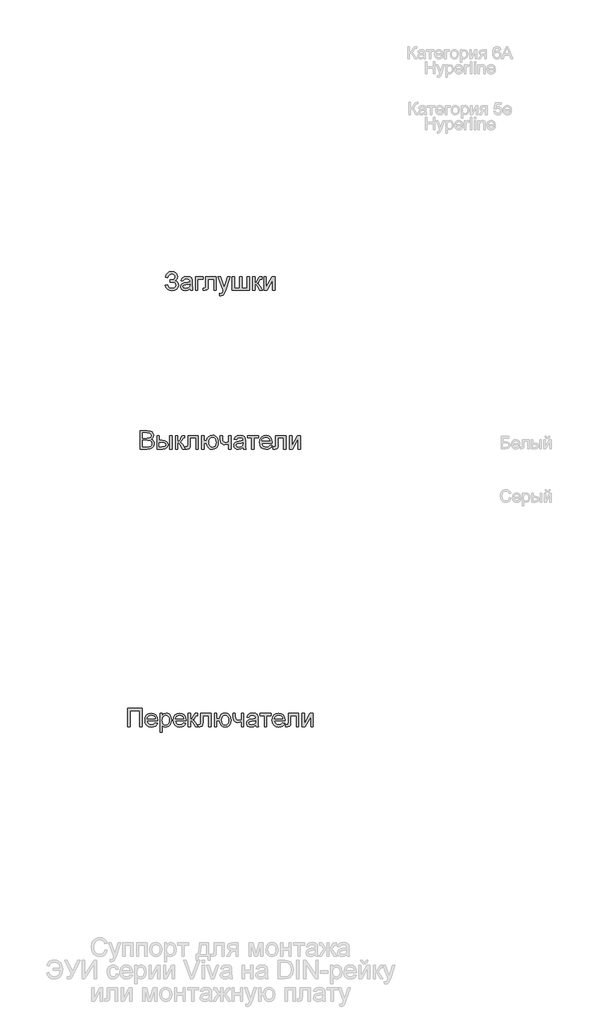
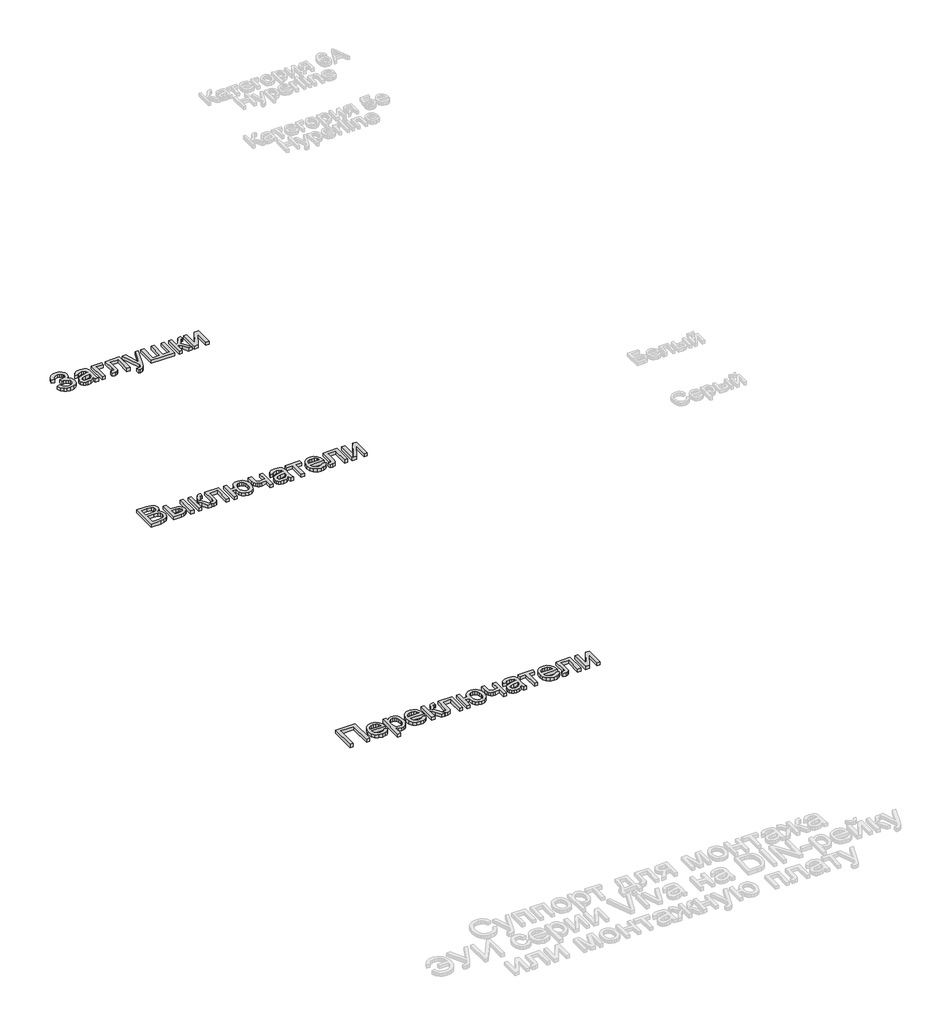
# One storey, part 3 of 15: 3 proxies.
"""IFC4 building model written with IfcOpenShell, lengths in millimetres."""

from ifc_helpers import new_model, si_unit, origin, origin_with_axes, place, context, project, spatial, polyline, outline, extrude, element, save

model = new_model("IFC4")

# Units and contexts
model_context = context("Model", 3, world=origin())
ifc_project = project(units=[si_unit("LENGTHUNIT", "METRE", prefix="MILLI")], contexts=[model_context])

# Site, building, storey
site = spatial("IfcSite", under=ifc_project)
building = spatial("IfcBuilding", under=site)
storey = spatial("IfcBuildingStorey", under=building, Name="Этаж 01", Elevation=0.0)

# Proxies
placement = place(None, origin())
element("IfcBuildingElementProxy", 1, Name="150 мм Arial", ObjectType="150 мм Arial", at=placement, inside=storey, context=model_context, shape_type="SweptSolid", body=[
    extrude(outline(polyline([(-1922.2336144, -8854.1329224), (-1903.3980563, -8849.4240328), (-1891.8281675, -8869.8230895), (-1880.8974737, -8877.4796335), (-1866.9041623, -8880.0318148), (-1852.72691, -8878.1142299), (-1841.9065808, -8872.3614752), (-1835.0501801, -8863.8955908), (-1832.7647132, -8853.8386168), (-1835.2617122, -8843.3033961), (-1842.7527094, -8835.1686055), (-1854.5479258, -8829.9676738), (-1869.9575829, -8828.2340299), (-1879.8536086, -8828.2340299), (-1879.8536086, -8809.3984718), (-1858.534847, -8807.8717615), (-1845.4934302, -8800.0726632), (-1839.8280475, -8785.8172359), (-1841.7134427, -8776.9466813), (-1847.3696284, -8769.3177284), (-1856.2447815, -8764.0616144), (-1867.7870791, -8762.3095764), (-1887.0089134, -8767.6990476), (-1898.008585, -8781.9912631), (-1901.0436115, -8795.2718031), (-1919.8791696, -8790.5629136), (-1914.0275467, -8769.9615219), (-1903.4256474, -8755.2462421), (-1888.0734719, -8746.4170742), (-1867.9710201, -8743.4740182), (-1848.5790405, -8746.5320373), (-1833.6660241, -8755.7060946), (-1824.160873, -8768.972839), (-1820.9924893, -8784.3089197), (-1825.9221081, -8802.9513398), (-1840.7109643, -8816.8664763), (-1830.2355245, -8821.6903289), (-1821.6178887, -8829.8343166), (-1815.8513385, -8840.5994635), (-1813.929155, -8853.2867938), (-1817.617172, -8871.124472), (-1828.681223, -8885.7891681), (-1845.8337211, -8895.5978218), (-1867.7870791, -8898.867373), (-1886.8893517, -8896.0714698), (-1902.3311985, -8887.6837603), (-1914.1126194, -8873.7042445), (-1922.2336144, -8854.1329224)])), origin_with_axes(), (0.0, 0.0, 1.0), 20.0),
    extrude(outline(polyline([(-1719.7513643, -8882.3862596), (-1738.0167053, -8895.1517648), (-1758.1950328, -8898.867373), (-1773.9357836, -8896.6324899), (-1785.5470591, -8889.9278405), (-1792.7069624, -8879.7467063), (-1795.0935969, -8867.0823686), (-1791.4883533, -8852.1831478), (-1782.015392, -8841.3674171), (-1768.8268224, -8835.1869996), (-1752.52965, -8832.3543083), (-1719.8617289, -8825.8795851), (-1719.7513643, -8821.6857304), (-1721.0481483, -8813.2796268), (-1724.9385004, -8807.779791), (-1733.6389096, -8803.6963008), (-1745.7606213, -8802.3351375), (-1764.8169087, -8805.9587751), (-1773.903594, -8818.8162508), (-1792.7391521, -8816.4618061), (-1784.5905659, -8798.0677063), (-1768.1830289, -8787.2887639), (-1743.3326002, -8783.4995793), (-1720.5055224, -8786.8473055), (-1707.6112584, -8795.253409), (-1701.8355111, -8808.0373084), (-1700.9158061, -8824.5184218), (-1700.9158061, -8847.9525049), (-1699.9593129, -8880.6756083), (-1696.2069166, -8896.5129282), (-1715.0424747, -8896.5129282), (-1719.7513643, -8882.3862596)]), holes=[polyline([(-1719.7513643, -8844.7151433), (-1750.1384171, -8850.4908906), (-1766.343619, -8853.5443112), (-1773.6828648, -8858.5107181), (-1776.2580387, -8865.7579934), (-1770.6478383, -8875.9483247), (-1754.185119, -8880.0318148), (-1735.1288317, -8875.5252604), (-1722.841573, -8864.6175592), (-1719.8617289, -8850.0494322), (-1719.7513643, -8844.7151433)])]), origin_with_axes(), (0.0, 0.0, 1.0), 20.0),
    extrude(outline(polyline([(-1675.0169137, -8785.8540241), (-1613.8013497, -8785.8540241), (-1613.8013497, -8804.6895822), (-1656.1813555, -8804.6895822), (-1656.1813555, -8896.5129282), (-1675.0169137, -8896.5129282), (-1675.0169137, -8785.8540241)])), origin_with_axes(), (0.0, 0.0, 1.0), 20.0),
    extrude(outline(polyline([(-1590.256902, -8785.8540241), (-1505.4968903, -8785.8540241), (-1505.4968903, -8896.4025636), (-1524.3324484, -8896.4025636), (-1524.3324484, -8804.6895822), (-1571.4213438, -8804.6895822), (-1571.4213438, -8857.4806485), (-1572.6905367, -8881.8344366), (-1579.6619005, -8892.1167384), (-1596.1430139, -8896.5129282), (-1611.4469049, -8895.556435), (-1611.4469049, -8877.6773701), (-1603.0224072, -8877.6773701), (-1594.505939, -8876.5185418), (-1591.1030306, -8872.8397218), (-1590.256902, -8856.4137907), (-1590.256902, -8785.8540241)])), origin_with_axes(), (0.0, 0.0, 1.0), 20.0),
    extrude(outline(polyline([(-1477.2435531, -8938.8929341), (-1479.5979978, -8920.7563517), (-1470.0330659, -8922.4118207), (-1461.0935335, -8920.3332874), (-1455.6120917, -8914.539146), (-1450.4617438, -8900.6699948), (-1448.9902158, -8896.108258), (-1489.0157769, -8785.8540241), (-1469.1501492, -8785.8540241), (-1447.923358, -8847.2903173), (-1440.5289299, -8871.8648345), (-1433.1345018, -8850.1597968), (-1411.3190995, -8785.8540241), (-1391.6006246, -8785.8540241), (-1430.1178695, -8899.1616786), (-1440.1242597, -8923.7361959), (-1451.050355, -8937.0167359), (-1465.7288466, -8941.2473788), (-1477.2435531, -8938.8929341)])), origin_with_axes(), (0.0, 0.0, 1.0), 20.0),
    extrude(outline(polyline([(-1376.002428, -8785.8540241), (-1357.1668698, -8785.8540241), (-1357.1668698, -8877.6773701), (-1314.786864, -8877.6773701), (-1314.786864, -8785.8540241), (-1295.9513058, -8785.8540241), (-1295.9513058, -8877.6773701), (-1253.5713, -8877.6773701), (-1253.5713, -8785.8540241), (-1234.7357418, -8785.8540241), (-1234.7357418, -8896.5129282), (-1376.002428, -8896.5129282), (-1376.002428, -8785.8540241)])), origin_with_axes(), (0.0, 0.0, 1.0), 20.0),
    extrude(outline(polyline([(-1208.8368494, -8785.8540241), (-1190.0012912, -8785.8540241), (-1190.0012912, -8832.9429195), (-1177.3829388, -8829.5584051), (-1167.0454547, -8809.8399302), (-1158.4554101, -8792.8253879), (-1150.877041, -8787.2887639), (-1137.0998603, -8785.8540241), (-1133.4946168, -8785.8540241), (-1133.4946168, -8804.7999468), (-1138.5713883, -8804.6895822), (-1147.7684382, -8806.676145), (-1154.2431613, -8819.0737682), (-1161.8399245, -8832.483067), (-1172.4901082, -8839.0497606), (-1160.6075198, -8846.3798093), (-1148.9456606, -8861.8216561), (-1128.7857272, -8896.5129282), (-1150.1964593, -8896.5129282), (-1169.9517225, -8862.5574201), (-1179.8845364, -8848.1916282), (-1190.0012912, -8844.7151433), (-1190.0012912, -8896.5129282), (-1208.8368494, -8896.5129282), (-1208.8368494, -8785.8540241)])), origin_with_axes(), (0.0, 0.0, 1.0), 20.0),
    extrude(outline(polyline([(-1117.0135034, -8785.8540241), (-1098.1779452, -8785.8540241), (-1098.1779452, -8870.2461538), (-1051.8983902, -8785.8540241), (-1027.5446021, -8785.8540241), (-1027.5446021, -8896.5129282), (-1046.3801603, -8896.5129282), (-1046.3801603, -8812.6358333), (-1092.3654097, -8896.5129282), (-1117.0135034, -8896.5129282), (-1117.0135034, -8785.8540241)])), origin_with_axes(), (0.0, 0.0, 1.0), 20.0),
])
element("IfcBuildingElementProxy", 2, Name="150 мм Arial", ObjectType="150 мм Arial", at=placement, inside=storey, context=model_context, shape_type="SweptSolid", body=[
    extrude(outline(polyline([(-2124.7158646, -10190.6470794), (-2124.7158646, -10039.9626142), (-2067.2159087, -10039.9626142), (-2039.054542, -10044.3955922), (-2029.5907777, -10050.0195882), (-2022.4262758, -10058.0256201), (-2016.4114052, -10077.3026367), (-2021.4697826, -10094.9057901), (-2036.7552795, -10108.2415125), (-2026.0821031, -10113.8149247), (-2018.1956329, -10122.2946047), (-2013.3257949, -10133.1195324), (-2011.7025156, -10145.7286878), (-2016.1354937, -10165.9805916), (-2027.1167712, -10180.4015658), (-2043.5059141, -10188.0535113), (-2067.6573671, -10190.6470794), (-2124.7158646, -10190.6470794)]), holes=[polyline([(-2105.8803064, -10101.1781781), (-2071.4833399, -10101.1781781), (-2051.3969829, -10099.5594974), (-2039.3120594, -10092.5881336), (-2035.2469633, -10080.319269), (-2039.0361479, -10068.0320104), (-2049.8886667, -10060.766341), (-2074.095302, -10058.7981723), (-2105.8803064, -10058.7981723), (-2105.8803064, -10101.1781781)]), polyline([(-2105.8803064, -10171.8115212), (-2067.2526969, -10171.8115212), (-2053.2731811, -10171.0757572), (-2041.445775, -10166.973873), (-2033.6098885, -10158.6045576), (-2030.5380738, -10145.9126288), (-2034.1433174, -10131.2709254), (-2045.8235707, -10122.533728), (-2069.0921069, -10120.0137363), (-2105.8803064, -10120.0137363), (-2105.8803064, -10171.8115212)])]), origin_with_axes(), (0.0, 0.0, 1.0), 20.0),
    extrude(outline(polyline([(-1884.5624981, -10079.9881752), (-1865.72694, -10079.9881752), (-1865.72694, -10190.6470794), (-1884.5624981, -10190.6470794), (-1884.5624981, -10079.9881752)])), origin_with_axes(), (0.0, 0.0, 1.0), 20.0),
    extrude(outline(polyline([(-1988.158068, -10079.9881752), (-1969.3225098, -10079.9881752), (-1969.3225098, -10120.0137363), (-1946.0355795, -10120.0137363), (-1925.9078358, -10122.3727796), (-1910.9948195, -10129.4499095), (-1901.7655799, -10140.6749089), (-1898.6891667, -10155.4775606), (-1901.2689392, -10168.9558372), (-1909.0082567, -10180.3279894), (-1922.4129569, -10188.0673069), (-1941.9888776, -10190.6470794), (-1988.158068, -10190.6470794), (-1988.158068, -10079.9881752)]), holes=[polyline([(-1969.3225098, -10171.8115212), (-1949.9719169, -10171.8115212), (-1924.9927294, -10167.8567898), (-1919.391726, -10162.7938138), (-1917.5247249, -10155.5143488), (-1923.0613489, -10143.926066), (-1931.9411006, -10140.1184873), (-1947.5071075, -10138.8492945), (-1969.3225098, -10138.8492945), (-1969.3225098, -10171.8115212)])]), origin_with_axes(), (0.0, 0.0, 1.0), 20.0),
    extrude(outline(polyline([(-1837.4736027, -10079.9881752), (-1818.6380446, -10079.9881752), (-1818.6380446, -10127.0770706), (-1806.0196921, -10123.6925563), (-1795.6822081, -10103.9740813), (-1787.0921635, -10086.959539), (-1779.5137944, -10081.422915), (-1765.7366137, -10079.9881752), (-1762.1313701, -10079.9881752), (-1762.1313701, -10098.934098), (-1767.2081417, -10098.8237334), (-1776.4051915, -10100.8102962), (-1782.8799146, -10113.2079194), (-1790.4766778, -10126.6172181), (-1801.1268616, -10133.1839117), (-1789.2442732, -10140.5139605), (-1777.5824139, -10155.9558072), (-1757.4224806, -10190.6470794), (-1778.8332127, -10190.6470794), (-1798.5884758, -10156.6915712), (-1808.5212897, -10142.3257793), (-1818.6380446, -10138.8492945), (-1818.6380446, -10190.6470794), (-1837.4736027, -10190.6470794), (-1837.4736027, -10079.9881752)])), origin_with_axes(), (0.0, 0.0, 1.0), 20.0),
    extrude(outline(polyline([(-1736.2324777, -10079.9881752), (-1651.472466, -10079.9881752), (-1651.472466, -10190.5367148), (-1670.3080241, -10190.5367148), (-1670.3080241, -10098.8237334), (-1717.3969195, -10098.8237334), (-1717.3969195, -10151.6147997), (-1718.6661124, -10175.9685878), (-1725.6374762, -10186.2508895), (-1742.1185896, -10190.6470794), (-1757.4224806, -10189.6905862), (-1757.4224806, -10171.8115212), (-1748.9979829, -10171.8115212), (-1740.4815147, -10170.6526929), (-1737.0786062, -10166.973873), (-1736.2324777, -10150.5479419), (-1736.2324777, -10079.9881752)])), origin_with_axes(), (0.0, 0.0, 1.0), 20.0),
    extrude(outline(polyline([(-1623.2191287, -10079.9881752), (-1604.3835706, -10079.9881752), (-1604.3835706, -10122.3681811), (-1583.1935677, -10122.3681811), (-1578.3053357, -10103.1647409), (-1568.5702584, -10089.1116487), (-1554.6045381, -10080.50321), (-1537.0243773, -10077.6337305), (-1522.2493166, -10079.3213891), (-1510.9599379, -10084.3843651), (-1495.2145885, -10102.9807999), (-1490.5654798, -10116.8867393), (-1489.0157769, -10134.9129571), (-1492.2209488, -10160.0392974), (-1501.8364644, -10178.2494561), (-1516.9426189, -10189.3135071), (-1536.6197071, -10193.0015241), (-1555.0092083, -10189.5434334), (-1569.3428105, -10179.1691611), (-1578.9583262, -10162.7616241), (-1583.1935677, -10141.2037392), (-1604.3835706, -10141.2037392), (-1604.3835706, -10190.6470794), (-1623.2191287, -10190.6470794), (-1623.2191287, -10079.9881752)]), holes=[polyline([(-1535.8103667, -10096.4692886), (-1547.8171153, -10098.9065068), (-1556.8348227, -10106.2181615), (-1562.4772128, -10117.926006), (-1564.3580095, -10133.5517937), (-1562.4634172, -10151.757354), (-1556.7796404, -10164.3619108), (-1547.9228814, -10171.7149522), (-1536.5093425, -10174.165966), (-1525.0636139, -10171.8988932), (-1515.8895566, -10165.0976748), (-1509.8608905, -10153.247276), (-1507.8513351, -10135.8326621), (-1509.5895775, -10118.6111862), (-1514.8043048, -10106.310132), (-1523.5323051, -10098.9294995), (-1535.8103667, -10096.4692886)])]), origin_with_axes(), (0.0, 0.0, 1.0), 20.0),
    extrude(outline(polyline([(-1472.5346635, -10079.9881752), (-1453.6991054, -10079.9881752), (-1453.6991054, -10101.2149663), (-1452.1723951, -10121.1173823), (-1444.8331493, -10131.8963247), (-1430.2650223, -10136.4948497), (-1404.2557652, -10130.7926788), (-1404.2557652, -10079.9881752), (-1385.4202071, -10079.9881752), (-1385.4202071, -10190.6470794), (-1404.2557652, -10190.6470794), (-1404.2557652, -10148.8556847), (-1435.3050056, -10155.3304078), (-1446.6955519, -10153.6427492), (-1456.6605554, -10148.5797732), (-1464.427464, -10141.070382), (-1469.2237256, -10132.0434775), (-1472.5346635, -10110.5223808), (-1472.5346635, -10079.9881752)])), origin_with_axes(), (0.0, 0.0, 1.0), 20.0),
    extrude(outline(polyline([(-1286.5335268, -10176.5204108), (-1304.7988678, -10189.285916), (-1324.9771952, -10193.0015241), (-1340.7179461, -10190.766641), (-1352.3292216, -10184.0619917), (-1359.4891249, -10173.8808574), (-1361.8757594, -10161.2165198), (-1358.2705158, -10146.317299), (-1348.7975544, -10135.5015683), (-1335.6089849, -10129.3211508), (-1319.3118125, -10126.4884594), (-1286.6438914, -10120.0137363), (-1286.5335268, -10115.8198816), (-1287.8303108, -10107.413778), (-1291.7206629, -10101.9139421), (-1300.4210721, -10097.830452), (-1312.5427838, -10096.4692886), (-1331.5990712, -10100.0929263), (-1340.6857564, -10112.950402), (-1359.5213146, -10110.5959572), (-1351.3727284, -10092.2018575), (-1334.9651914, -10081.422915), (-1310.1147626, -10077.6337305), (-1287.2876848, -10080.9814566), (-1274.3934209, -10089.3875602), (-1268.6176736, -10102.1714595), (-1267.6979686, -10118.6525729), (-1267.6979686, -10142.086656), (-1266.7414754, -10174.8097595), (-1262.9890791, -10190.6470794), (-1281.8246372, -10190.6470794), (-1286.5335268, -10176.5204108)]), holes=[polyline([(-1286.5335268, -10138.8492945), (-1316.9205796, -10144.6250418), (-1333.1257814, -10147.6784623), (-1340.4650272, -10152.6448693), (-1343.0402012, -10159.8921446), (-1337.4300008, -10170.0824758), (-1320.9672815, -10174.165966), (-1301.9109942, -10169.6594116), (-1289.6237355, -10158.7517104), (-1286.6438914, -10144.1835834), (-1286.5335268, -10138.8492945)])]), origin_with_axes(), (0.0, 0.0, 1.0), 20.0),
    extrude(outline(polyline([(-1251.2168552, -10079.9881752), (-1161.747954, -10079.9881752), (-1161.747954, -10098.8237334), (-1197.0646255, -10098.8237334), (-1197.0646255, -10190.6470794), (-1215.9001837, -10190.6470794), (-1215.9001837, -10098.8237334), (-1251.2168552, -10098.8237334), (-1251.2168552, -10079.9881752)])), origin_with_axes(), (0.0, 0.0, 1.0), 20.0),
    extrude(outline(polyline([(-1067.7908924, -10157.6848526), (-1049.3232163, -10160.0392974), (-1055.9772819, -10173.9544338), (-1066.5952759, -10184.3562973), (-1080.9380752, -10190.8402174), (-1098.7665564, -10193.0015241), (-1120.8670673, -10189.2721204), (-1137.8724125, -10178.0839092), (-1148.7157343, -10160.1634575), (-1152.3301749, -10136.2373323), (-1148.6789461, -10111.5064652), (-1137.7252597, -10093.0111979), (-1120.9498407, -10081.4780973), (-1099.8334142, -10077.6337305), (-1079.3745767, -10081.4689003), (-1063.0268206, -10092.9744097), (-1052.3076589, -10111.4328888), (-1048.7346051, -10136.1269677), (-1048.8449697, -10141.2037392), (-1133.4946168, -10141.2037392), (-1130.2342626, -10155.3028167), (-1122.660492, -10165.6678919), (-1111.7297982, -10172.0414475), (-1098.3986744, -10174.165966), (-1079.9309983, -10170.2296286), (-1067.7908924, -10157.6848526)]), holes=[polyline([(-1133.4946168, -10122.3681811), (-1067.5701632, -10122.3681811), (-1070.117746, -10112.4169731), (-1075.1117441, -10105.2984565), (-1086.0930217, -10098.6765806), (-1099.9069906, -10096.4692886), (-1112.603518, -10098.2305237), (-1123.1019504, -10103.5142288), (-1130.3998095, -10111.750187), (-1133.4946168, -10122.3681811)])]), origin_with_axes(), (0.0, 0.0, 1.0), 20.0),
    extrude(outline(polyline([(-1020.4812678, -10079.9881752), (-935.7212562, -10079.9881752), (-935.7212562, -10190.5367148), (-954.5568143, -10190.5367148), (-954.5568143, -10098.8237334), (-1001.6457097, -10098.8237334), (-1001.6457097, -10151.6147997), (-1002.9149026, -10175.9685878), (-1009.8862664, -10186.2508895), (-1026.3673798, -10190.6470794), (-1041.6712708, -10189.6905862), (-1041.6712708, -10171.8115212), (-1033.2467731, -10171.8115212), (-1024.7303049, -10170.6526929), (-1021.3273964, -10166.973873), (-1020.4812678, -10150.5479419), (-1020.4812678, -10079.9881752)])), origin_with_axes(), (0.0, 0.0, 1.0), 20.0),
    extrude(outline(polyline([(-907.4679189, -10079.9881752), (-888.6323608, -10079.9881752), (-888.6323608, -10164.3803049), (-842.3528058, -10079.9881752), (-817.9990177, -10079.9881752), (-817.9990177, -10190.6470794), (-836.8345758, -10190.6470794), (-836.8345758, -10106.7699845), (-882.8198252, -10190.6470794), (-907.4679189, -10190.6470794), (-907.4679189, -10079.9881752)])), origin_with_axes(), (0.0, 0.0, 1.0), 20.0),
])
element("IfcBuildingElementProxy", 3, Name="150 мм Arial", ObjectType="150 мм Arial", at=placement, inside=storey, context=model_context, shape_type="SweptSolid", body=[
    extrude(outline(polyline([(-2228.3114344, -12303.8994911), (-2110.5891959, -12303.8994911), (-2110.5891959, -12454.5839563), (-2129.4247541, -12454.5839563), (-2129.4247541, -12322.7350492), (-2209.4758763, -12322.7350492), (-2209.4758763, -12454.5839563), (-2228.3114344, -12454.5839563), (-2228.3114344, -12303.8994911)])), origin_with_axes(), (0.0, 0.0, 1.0), 20.0),
    extrude(outline(polyline([(-2002.5054658, -12421.6217295), (-1984.0377896, -12423.9761743), (-1990.6918552, -12437.8913108), (-2001.3098493, -12448.2931742), (-2015.6526486, -12454.7770943), (-2033.4811298, -12456.9384011), (-2055.5816406, -12453.2089973), (-2072.5869858, -12442.0207862), (-2083.4303077, -12424.1003345), (-2087.0447483, -12400.1742092), (-2083.3935195, -12375.4433421), (-2072.439833, -12356.9480748), (-2055.6644141, -12345.4149742), (-2034.5479875, -12341.5706074), (-2014.0891501, -12345.4057772), (-1997.7413939, -12356.9112866), (-1987.0222323, -12375.3697657), (-1983.4491784, -12400.0638446), (-1983.559543, -12405.1406161), (-2068.2091901, -12405.1406161), (-2064.9488359, -12419.2396936), (-2057.3750653, -12429.6047688), (-2046.4443716, -12435.9783244), (-2033.1132478, -12438.1028429), (-2014.6455716, -12434.1665056), (-2002.5054658, -12421.6217295)]), holes=[polyline([(-2068.2091901, -12386.305058), (-2002.2847366, -12386.305058), (-2004.8323194, -12376.35385), (-2009.8263175, -12369.2353334), (-2020.807595, -12362.6134575), (-2034.6215639, -12360.4061655), (-2047.3180913, -12362.1674006), (-2057.8165237, -12367.4511057), (-2065.1143828, -12375.6870639), (-2068.2091901, -12386.305058)])]), origin_with_axes(), (0.0, 0.0, 1.0), 20.0),
    extrude(outline(polyline([(-1964.6136203, -12496.9639621), (-1964.6136203, -12343.9250521), (-1945.7780621, -12343.9250521), (-1945.7780621, -12362.3927283), (-1932.7550395, -12346.7761376), (-1915.1702801, -12341.5706074), (-1902.432366, -12343.3916232), (-1891.2947386, -12348.8546709), (-1882.2264474, -12357.6286565), (-1875.696542, -12369.3824862), (-1870.4358295, -12398.4083756), (-1871.9211531, -12414.5170085), (-1876.3771237, -12428.9241871), (-1883.6611872, -12440.8987461), (-1893.6307893, -12449.7095199), (-1905.2420648, -12455.1311808), (-1917.4511485, -12456.9384011), (-1933.8402914, -12452.1007528), (-1945.7780621, -12439.8686765), (-1945.7780621, -12496.9639621), (-1964.6136203, -12496.9639621)]), holes=[polyline([(-1945.7780621, -12400.137421), (-1943.7409156, -12417.0232046), (-1937.6294759, -12428.8322166), (-1928.6117685, -12435.7851863), (-1917.8558187, -12438.1028429), (-1906.9251249, -12435.7024129), (-1897.6774912, -12428.5011228), (-1891.3729135, -12416.2598494), (-1889.2713877, -12398.7394694), (-1891.3223298, -12381.9456563), (-1897.4751561, -12369.9710974), (-1906.479068, -12362.7973985), (-1917.0832665, -12360.4061655), (-1927.7288517, -12362.9491498), (-1937.0776529, -12370.5781027), (-1943.6029598, -12383.0539008), (-1945.7780621, -12400.137421)])]), origin_with_axes(), (0.0, 0.0, 1.0), 20.0),
    extrude(outline(polyline([(-1771.7698784, -12421.6217295), (-1753.3022022, -12423.9761743), (-1759.9562678, -12437.8913108), (-1770.5742619, -12448.2931742), (-1784.9170612, -12454.7770943), (-1802.7455424, -12456.9384011), (-1824.8460532, -12453.2089973), (-1841.8513985, -12442.0207862), (-1852.6947203, -12424.1003345), (-1856.3091609, -12400.1742092), (-1852.6579321, -12375.4433421), (-1841.7042457, -12356.9480748), (-1824.9288267, -12345.4149742), (-1803.8124002, -12341.5706074), (-1783.3535627, -12345.4057772), (-1767.0058066, -12356.9112866), (-1756.2866449, -12375.3697657), (-1752.713591, -12400.0638446), (-1752.8239556, -12405.1406161), (-1837.4736027, -12405.1406161), (-1834.2132485, -12419.2396936), (-1826.639478, -12429.6047688), (-1815.7087842, -12435.9783244), (-1802.3776604, -12438.1028429), (-1783.9099842, -12434.1665056), (-1771.7698784, -12421.6217295)]), holes=[polyline([(-1837.4736027, -12386.305058), (-1771.5491492, -12386.305058), (-1774.096732, -12376.35385), (-1779.0907301, -12369.2353334), (-1790.0720077, -12362.6134575), (-1803.8859766, -12360.4061655), (-1816.5825039, -12362.1674006), (-1827.0809364, -12367.4511057), (-1834.3787954, -12375.6870639), (-1837.4736027, -12386.305058)])]), origin_with_axes(), (0.0, 0.0, 1.0), 20.0),
    extrude(outline(polyline([(-1733.8780329, -12343.9250521), (-1715.0424747, -12343.9250521), (-1715.0424747, -12391.0139475), (-1702.4241223, -12387.6294332), (-1692.0866382, -12367.9109582), (-1683.4965936, -12350.8964159), (-1675.9182245, -12345.3597919), (-1662.1410438, -12343.9250521), (-1658.5358003, -12343.9250521), (-1658.5358003, -12362.8709749), (-1663.6125718, -12362.7606103), (-1672.8096217, -12364.7471731), (-1679.2843448, -12377.1447963), (-1686.881108, -12390.554095), (-1697.5312918, -12397.1207886), (-1685.6487033, -12404.4508374), (-1673.9868441, -12419.8926841), (-1653.8269107, -12454.5839563), (-1675.2376429, -12454.5839563), (-1694.992906, -12420.6284481), (-1704.9257199, -12406.2626562), (-1715.0424747, -12402.7861714), (-1715.0424747, -12454.5839563), (-1733.8780329, -12454.5839563), (-1733.8780329, -12343.9250521)])), origin_with_axes(), (0.0, 0.0, 1.0), 20.0),
    extrude(outline(polyline([(-1632.6369078, -12343.9250521), (-1547.8768961, -12343.9250521), (-1547.8768961, -12454.4735917), (-1566.7124543, -12454.4735917), (-1566.7124543, -12362.7606103), (-1613.8013497, -12362.7606103), (-1613.8013497, -12415.5516766), (-1615.0705425, -12439.9054647), (-1622.0419064, -12450.1877664), (-1638.5230197, -12454.5839563), (-1653.8269107, -12453.6274631), (-1653.8269107, -12435.7483981), (-1645.402413, -12435.7483981), (-1636.8859449, -12434.5895698), (-1633.4830364, -12430.9107499), (-1632.6369078, -12414.4848188), (-1632.6369078, -12343.9250521)])), origin_with_axes(), (0.0, 0.0, 1.0), 20.0),
    extrude(outline(polyline([(-1519.6235589, -12343.9250521), (-1500.7880007, -12343.9250521), (-1500.7880007, -12386.305058), (-1479.5979978, -12386.305058), (-1474.7097658, -12367.1016178), (-1464.9746885, -12353.0485256), (-1451.0089683, -12344.4400869), (-1433.4288074, -12341.5706074), (-1418.6537468, -12343.258266), (-1407.3643681, -12348.321242), (-1391.6190187, -12366.9176768), (-1386.96991, -12380.8236163), (-1385.4202071, -12398.849834), (-1388.6253789, -12423.9761743), (-1398.2408946, -12442.186333), (-1413.347049, -12453.2503841), (-1433.0241372, -12456.9384011), (-1451.4136385, -12453.4803103), (-1465.7472407, -12443.106038), (-1475.3627564, -12426.6985011), (-1479.5979978, -12405.1406161), (-1500.7880007, -12405.1406161), (-1500.7880007, -12454.5839563), (-1519.6235589, -12454.5839563), (-1519.6235589, -12343.9250521)]), holes=[polyline([(-1432.2147968, -12360.4061655), (-1444.2215455, -12362.8433837), (-1453.2392529, -12370.1550384), (-1458.881643, -12381.8628829), (-1460.7624397, -12397.4886706), (-1458.8678474, -12415.6942309), (-1453.1840706, -12428.2987877), (-1444.3273115, -12435.6518291), (-1432.9137726, -12438.1028429), (-1421.4680441, -12435.8357701), (-1412.2939868, -12429.0345517), (-1406.2653206, -12417.184153), (-1404.2557652, -12399.769539), (-1405.9940076, -12382.5480631), (-1411.2087349, -12370.2470089), (-1419.9367353, -12362.8663764), (-1432.2147968, -12360.4061655)])]), origin_with_axes(), (0.0, 0.0, 1.0), 20.0),
    extrude(outline(polyline([(-1368.9390937, -12343.9250521), (-1350.1035355, -12343.9250521), (-1350.1035355, -12365.1518433), (-1348.5768252, -12385.0542592), (-1341.2375794, -12395.8332017), (-1326.6694524, -12400.4317266), (-1300.6601954, -12394.7295557), (-1300.6601954, -12343.9250521), (-1281.8246372, -12343.9250521), (-1281.8246372, -12454.5839563), (-1300.6601954, -12454.5839563), (-1300.6601954, -12412.7925616), (-1331.7094358, -12419.2672847), (-1343.099982, -12417.5796261), (-1353.0649856, -12412.5166501), (-1360.8318942, -12405.0072589), (-1365.6281557, -12395.9803545), (-1368.9390937, -12374.4592577), (-1368.9390937, -12343.9250521)])), origin_with_axes(), (0.0, 0.0, 1.0), 20.0),
    extrude(outline(polyline([(-1182.9379569, -12440.4572877), (-1201.203298, -12453.2227929), (-1221.3816254, -12456.9384011), (-1237.1223763, -12454.7035179), (-1248.7336517, -12447.9988686), (-1255.8935551, -12437.8177344), (-1258.2801895, -12425.1533967), (-1254.674946, -12410.2541759), (-1245.2019846, -12399.4384452), (-1232.0134151, -12393.2580277), (-1215.7162427, -12390.4253363), (-1183.0483215, -12383.9506132), (-1182.9379569, -12379.7567585), (-1184.2347409, -12371.3506549), (-1188.125093, -12365.850819), (-1196.8255022, -12361.7673289), (-1208.947214, -12360.4061655), (-1228.0035013, -12364.0298032), (-1237.0901866, -12376.8872789), (-1255.9257448, -12374.5328341), (-1247.7771586, -12356.1387344), (-1231.3696216, -12345.3597919), (-1206.5191928, -12341.5706074), (-1183.692115, -12344.9183335), (-1170.7978511, -12353.3244371), (-1165.0221037, -12366.1083364), (-1164.1023988, -12382.5894498), (-1164.1023988, -12406.0235329), (-1163.1459056, -12438.7466364), (-1159.3935092, -12454.5839563), (-1178.2290674, -12454.5839563), (-1182.9379569, -12440.4572877)]), holes=[polyline([(-1182.9379569, -12402.7861714), (-1213.3250097, -12408.5619187), (-1229.5302116, -12411.6153392), (-1236.8694574, -12416.5817462), (-1239.4446314, -12423.8290215), (-1233.8344309, -12434.0193528), (-1217.3717117, -12438.1028429), (-1198.3154243, -12433.5962885), (-1186.0281657, -12422.6885873), (-1183.0483215, -12408.1204603), (-1182.9379569, -12402.7861714)])]), origin_with_axes(), (0.0, 0.0, 1.0), 20.0),
    extrude(outline(polyline([(-1147.6212854, -12343.9250521), (-1058.1523841, -12343.9250521), (-1058.1523841, -12362.7606103), (-1093.4690557, -12362.7606103), (-1093.4690557, -12454.5839563), (-1112.3046138, -12454.5839563), (-1112.3046138, -12362.7606103), (-1147.6212854, -12362.7606103), (-1147.6212854, -12343.9250521)])), origin_with_axes(), (0.0, 0.0, 1.0), 20.0),
    extrude(outline(polyline([(-964.1953226, -12421.6217295), (-945.7276464, -12423.9761743), (-952.381712, -12437.8913108), (-962.9997061, -12448.2931742), (-977.3425054, -12454.7770943), (-995.1709866, -12456.9384011), (-1017.2714974, -12453.2089973), (-1034.2768427, -12442.0207862), (-1045.1201645, -12424.1003345), (-1048.7346051, -12400.1742092), (-1045.0833763, -12375.4433421), (-1034.1296899, -12356.9480748), (-1017.3542709, -12345.4149742), (-996.2378444, -12341.5706074), (-975.7790069, -12345.4057772), (-959.4312507, -12356.9112866), (-948.7120891, -12375.3697657), (-945.1390352, -12400.0638446), (-945.2493998, -12405.1406161), (-1029.8990469, -12405.1406161), (-1026.6386927, -12419.2396936), (-1019.0649222, -12429.6047688), (-1008.1342284, -12435.9783244), (-994.8031046, -12438.1028429), (-976.3354284, -12434.1665056), (-964.1953226, -12421.6217295)]), holes=[polyline([(-1029.8990469, -12386.305058), (-963.9745934, -12386.305058), (-966.5221762, -12376.35385), (-971.5161743, -12369.2353334), (-982.4974518, -12362.6134575), (-996.3114208, -12360.4061655), (-1009.0079481, -12362.1674006), (-1019.5063806, -12367.4511057), (-1026.8042396, -12375.6870639), (-1029.8990469, -12386.305058)])]), origin_with_axes(), (0.0, 0.0, 1.0), 20.0),
    extrude(outline(polyline([(-916.885698, -12343.9250521), (-832.1256863, -12343.9250521), (-832.1256863, -12454.4735917), (-850.9612445, -12454.4735917), (-850.9612445, -12362.7606103), (-898.0501398, -12362.7606103), (-898.0501398, -12415.5516766), (-899.3193327, -12439.9054647), (-906.2906965, -12450.1877664), (-922.7718099, -12454.5839563), (-938.0757009, -12453.6274631), (-938.0757009, -12435.7483981), (-929.6512032, -12435.7483981), (-921.134735, -12434.5895698), (-917.7318266, -12430.9107499), (-916.885698, -12414.4848188), (-916.885698, -12343.9250521)])), origin_with_axes(), (0.0, 0.0, 1.0), 20.0),
    extrude(outline(polyline([(-803.8723491, -12343.9250521), (-785.0367909, -12343.9250521), (-785.0367909, -12428.3171818), (-738.7572359, -12343.9250521), (-714.4034479, -12343.9250521), (-714.4034479, -12454.5839563), (-733.239006, -12454.5839563), (-733.239006, -12370.7068614), (-779.2242554, -12454.5839563), (-803.8723491, -12454.5839563), (-803.8723491, -12343.9250521)])), origin_with_axes(), (0.0, 0.0, 1.0), 20.0),
])

save(model, "model.ifc")
